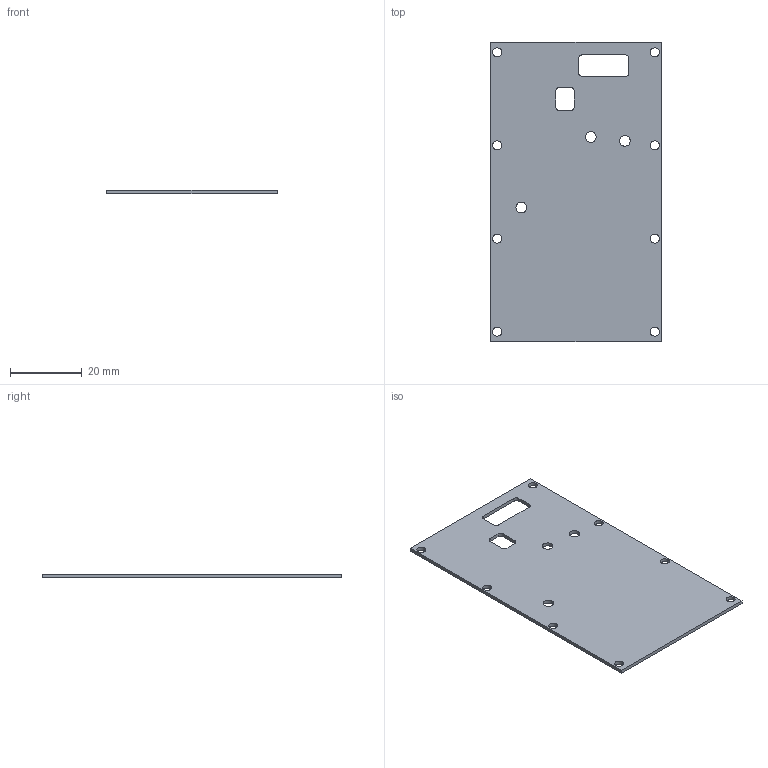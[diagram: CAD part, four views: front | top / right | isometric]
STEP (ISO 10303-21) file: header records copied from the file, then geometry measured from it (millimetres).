
FILE_DESCRIPTION((''),'2;1');
FILE_NAME('HIGHSPEED_RES2','2020-03-13T',('g0715'),(''),'PRO/ENGINEER BY PARAMETRIC TECHNOLOGY CORPORATION, 2014090','PRO/ENGINEER BY PARAMETRIC TECHNOLOGY CORPORATION, 2014090','');
FILE_SCHEMA(('CONFIG_CONTROL_DESIGN'));
Length unit declared in the file: millimetre
Products named in the file (1): HIGHSPEED_RES2
Bounding box: 47.5 x 83.5 x 1 mm (x, y, z)
Volume: 3789.8 mm3; surface area: 7992.7 mm2
Topology: 1 solids, 1 shells, 44 faces, 126 edges, 84 vertices
Faces by surface type: cylinder 30, plane 14
Entity records: 1560 total; most frequent: DIRECTION 274, CARTESIAN_POINT 254, ORIENTED_EDGE 252, EDGE_CURVE 126, AXIS2_PLACEMENT_3D 104, VERTEX_POINT 84, EDGE_LOOP 70, VECTOR 66
